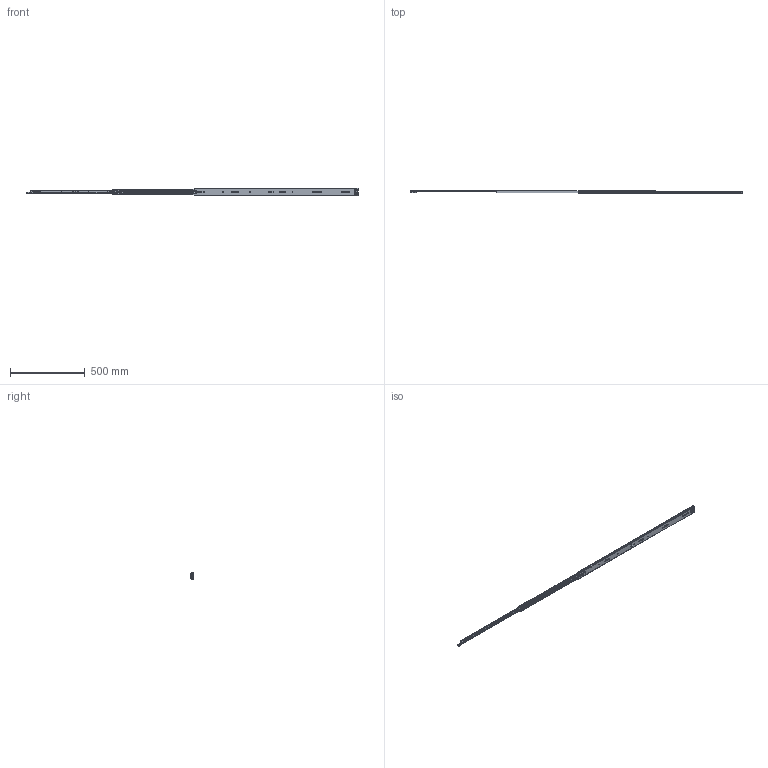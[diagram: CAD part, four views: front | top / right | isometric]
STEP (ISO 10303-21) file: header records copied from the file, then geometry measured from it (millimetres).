
FILE_DESCRIPTION((''),'2;1');
FILE_NAME('1053-3S-44ZUZHUANGTU_ASM','2023-04-12T',('jishu015'),(''),'PRO/ENGINEER BY PARAMETRIC TECHNOLOGY CORPORATION, 2010280','PRO/ENGINEER BY PARAMETRIC TECHNOLOGY CORPORATION, 2010280','');
FILE_SCHEMA(('CONFIG_CONTROL_DESIGN'));
Products named in the file (20): 1053-02-18WAIKE_______________; 1053WEIJIAO_______________; 1053-3S-24WAIKE________________ASM; 1053ZHUTIAO-175_______________; 53-5-6GANZHU_______________; 1053ZHUTIAO-175MM21_ASM; 1053-02-18ZHONGGUI1_; ZHONGGUIPEIJIAN_____________; ZHONGGUISUOKOU_____________; 1053-02-18ZHONGGUI1__ASM; 1053XIAOZHUJIA-14GE1__; 1053XIAOZHUJIA-14GE1___ASM; 1053-02-18NEIGUI_______________; DAOPIAN___________; PIAN___________; 1053-3SBANJI123__________; JIAO-11__________; 50XINSUOKOU11_________; 1053-02-18NEIGUI________________ASM; 1053-3S-44ZUZHUANGTU_ASM
Assembly tree (119 placements, depth 3):
  1053-3S-44ZUZHUANGTU_ASM
    1053-3S-24WAIKE________________ASM
      1053-02-18WAIKE_______________
      1053WEIJIAO_______________
    1053ZHUTIAO-175MM21_ASM  x2
      1053ZHUTIAO-175_______________
      53-5-6GANZHU_______________
    1053-02-18ZHONGGUI1__ASM
      1053-02-18ZHONGGUI1_
      ZHONGGUIPEIJIAN_____________
      ZHONGGUISUOKOU_____________
    1053XIAOZHUJIA-14GE1___ASM
      1053XIAOZHUJIA-14GE1__
      53-5-6GANZHU_______________  x80
    1053-02-18NEIGUI________________ASM
      1053-02-18NEIGUI_______________
      DAOPIAN___________
      PIAN___________
      1053-3SBANJI123__________
      JIAO-11__________
      50XINSUOKOU11_________
Bounding box: 2226.92 x 18.7 x 53 mm (x, y, z)
Volume: 422148.8 mm3; surface area: 489545.2 mm2
Topology: 135 solids, 135 shells, 3103 faces, 9019 edges, 5603 vertices
Faces by surface type: cylinder 1382, plane 1227, sphere 248, bspline 121, cone 86, extrusion 23, torus 16
Entity records: 97872 total; most frequent: CARTESIAN_POINT 23239, ORIENTED_EDGE 15816, DIRECTION 15395, EDGE_CURVE 7908, AXIS2_PLACEMENT_3D 5319, VERTEX_POINT 5109, VECTOR 4757, LINE 4734
